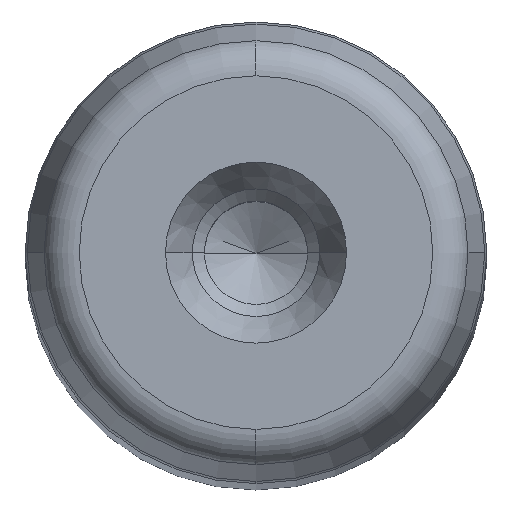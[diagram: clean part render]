
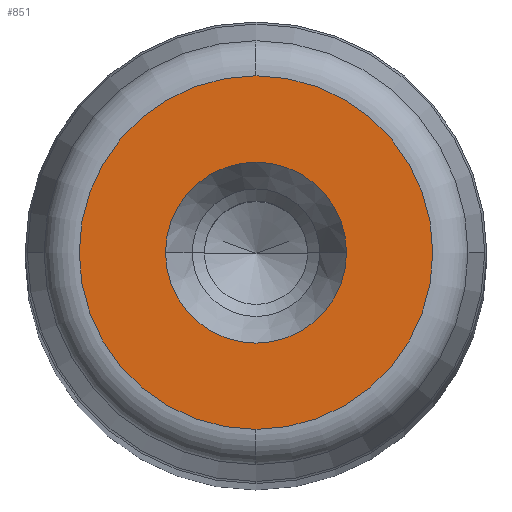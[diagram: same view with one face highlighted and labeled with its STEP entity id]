
A CAD part, top view. The second image highlights one B-rep face of the part: STEP entity #851.
In plain terms, the highlighted planar face has unit normal (0, 0, 1) as drawn and (0, 1, 0) by its records, which use the part's own axes.
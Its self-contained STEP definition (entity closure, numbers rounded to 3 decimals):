
#281=CARTESIAN_POINT('',(7.45,315.0,0.0));
#282=VERTEX_POINT('',#281);
#289=CARTESIAN_POINT('',(-7.45,315.0,0.));
#290=VERTEX_POINT('',#289);
#291=CARTESIAN_POINT('',(0.0,315.0,0.0));
#292=DIRECTION('',(0.0,1.0,0.0));
#293=DIRECTION('',(1.0,0.0,0.0));
#294=AXIS2_PLACEMENT_3D('',#291,#292,#293);
#295=CIRCLE('',#294,7.45);
#296=EDGE_CURVE('',#282,#290,#295,.T.);
#313=CARTESIAN_POINT('',(0.0,315.0,14.554));
#314=VERTEX_POINT('',#313);
#324=CARTESIAN_POINT('',(0.,315.0,-14.554));
#325=VERTEX_POINT('',#324);
#326=CARTESIAN_POINT('',(0.0,315.0,0.0));
#327=DIRECTION('',(0.0,1.0,0.0));
#328=DIRECTION('',(1.0,0.0,0.0));
#329=AXIS2_PLACEMENT_3D('',#326,#327,#328);
#330=CIRCLE('',#329,14.554);
#331=EDGE_CURVE('',#325,#314,#330,.T.);
#812=CARTESIAN_POINT('',(14.554,315.0,0.0));
#813=VERTEX_POINT('',#812);
#814=CARTESIAN_POINT('',(0.0,315.0,0.0));
#815=DIRECTION('',(0.0,1.0,0.0));
#816=DIRECTION('',(1.0,0.0,0.0));
#817=AXIS2_PLACEMENT_3D('',#814,#815,#816);
#818=CIRCLE('',#817,14.554);
#819=EDGE_CURVE('',#813,#325,#818,.T.);
#821=CARTESIAN_POINT('',(0.0,315.0,0.0));
#822=DIRECTION('',(0.0,1.0,0.0));
#823=DIRECTION('',(1.0,0.0,0.0));
#824=AXIS2_PLACEMENT_3D('',#821,#822,#823);
#825=CIRCLE('',#824,14.554);
#826=EDGE_CURVE('',#314,#813,#825,.T.);
#831=CARTESIAN_POINT('',(-16.01,315.0,-16.01));
#832=DIRECTION('',(0.0,1.0,0.0));
#833=DIRECTION('',(0.0,0.0,1.0));
#834=AXIS2_PLACEMENT_3D('',#831,#832,#833);
#835=PLANE('',#834);
#836=ORIENTED_EDGE('',*,*,#819,.T.);
#837=ORIENTED_EDGE('',*,*,#331,.T.);
#838=ORIENTED_EDGE('',*,*,#826,.T.);
#839=EDGE_LOOP('',(#836,#837,#838));
#840=FACE_OUTER_BOUND('',#839,.T.);
#841=ORIENTED_EDGE('',*,*,#296,.F.);
#842=CARTESIAN_POINT('',(0.0,315.0,0.0));
#843=DIRECTION('',(0.0,1.0,0.0));
#844=DIRECTION('',(1.0,0.0,0.0));
#845=AXIS2_PLACEMENT_3D('',#842,#843,#844);
#846=CIRCLE('',#845,7.45);
#847=EDGE_CURVE('',#290,#282,#846,.T.);
#848=ORIENTED_EDGE('',*,*,#847,.F.);
#849=EDGE_LOOP('',(#841,#848));
#850=FACE_BOUND('',#849,.T.);
#851=ADVANCED_FACE('',(#840,#850),#835,.T.);
